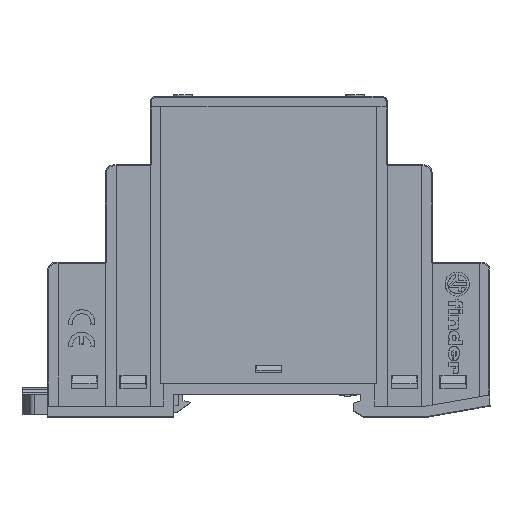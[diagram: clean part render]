
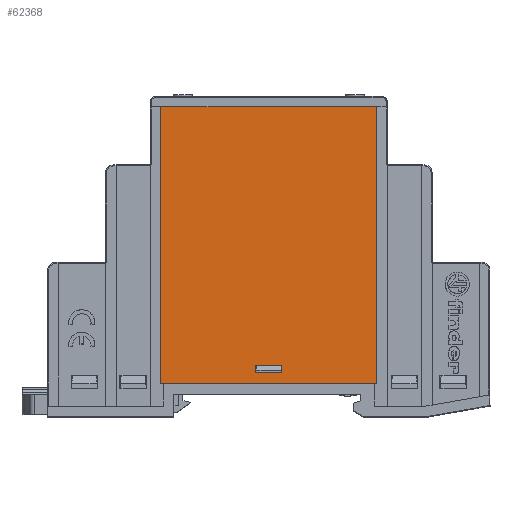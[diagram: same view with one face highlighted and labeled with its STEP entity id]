
A CAD part, top view. The second image highlights one B-rep face of the part: STEP entity #62368.
In plain terms, the highlighted planar face has unit normal (0, 0, -1).
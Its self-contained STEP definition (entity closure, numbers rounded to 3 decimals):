
#7509=ORIENTED_EDGE('',*,*,#21497,.T.);
#7510=ORIENTED_EDGE('',*,*,#21498,.T.);
#7511=ORIENTED_EDGE('',*,*,#21489,.F.);
#7512=ORIENTED_EDGE('',*,*,#21499,.T.);
#7513=ORIENTED_EDGE('',*,*,#21262,.F.);
#7514=ORIENTED_EDGE('',*,*,#21274,.F.);
#7515=ORIENTED_EDGE('',*,*,#21270,.F.);
#7516=ORIENTED_EDGE('',*,*,#21268,.F.);
#21262=EDGE_CURVE('',#30364,#30365,#38078,.T.);
#21268=EDGE_CURVE('',#30365,#30367,#38084,.T.);
#21270=EDGE_CURVE('',#30367,#30369,#38086,.T.);
#21274=EDGE_CURVE('',#30369,#30364,#38090,.T.);
#21489=EDGE_CURVE('',#30515,#30516,#38269,.T.);
#21497=EDGE_CURVE('',#30521,#30522,#38277,.T.);
#21498=EDGE_CURVE('',#30522,#30516,#38278,.T.);
#21499=EDGE_CURVE('',#30515,#30521,#38279,.T.);
#30364=VERTEX_POINT('',#100130);
#30365=VERTEX_POINT('',#100131);
#30367=VERTEX_POINT('',#100138);
#30369=VERTEX_POINT('',#100145);
#30515=VERTEX_POINT('',#100652);
#30516=VERTEX_POINT('',#100653);
#30521=VERTEX_POINT('',#100668);
#30522=VERTEX_POINT('',#100669);
#38078=LINE('',#100129,#46888);
#38084=LINE('',#100140,#46894);
#38086=LINE('',#100144,#46896);
#38090=LINE('',#100150,#46900);
#38269=LINE('',#100651,#47079);
#38277=LINE('',#100667,#47087);
#38278=LINE('',#100670,#47088);
#38279=LINE('',#100671,#47089);
#46888=VECTOR('',#81682,1000.);
#46894=VECTOR('',#81690,1000.);
#46896=VECTOR('',#81694,1000.);
#46900=VECTOR('',#81700,1000.);
#47079=VECTOR('',#82019,1000.);
#47087=VECTOR('',#82031,1000.);
#47088=VECTOR('',#82032,1000.);
#47089=VECTOR('',#82033,1000.);
#54121=EDGE_LOOP('',(#7509,#7510,#7511,#7512));
#54122=EDGE_LOOP('',(#7513,#7514,#7515,#7516));
#57113=FACE_BOUND('',#54121,.T.);
#57114=FACE_BOUND('',#54122,.T.);
#59775=PLANE('',#74069);
#62368=ADVANCED_FACE('',(#57113,#57114),#59775,.F.);
#74069=AXIS2_PLACEMENT_3D('',#100666,#82029,#82030);
#81682=DIRECTION('',(0.,-1.,0.));
#81690=DIRECTION('',(-1.,0.,0.));
#81694=DIRECTION('',(0.,1.,0.));
#81700=DIRECTION('',(1.,0.,0.));
#82019=DIRECTION('',(0.,1.,0.));
#82029=DIRECTION('',(0.,0.,1.));
#82030=DIRECTION('',(1.,0.,0.));
#82031=DIRECTION('',(0.,1.,0.));
#82032=DIRECTION('',(1.,0.,0.));
#82033=DIRECTION('',(-1.,0.,0.));
#100129=CARTESIAN_POINT('',(3.254,9.413,0.));
#100130=CARTESIAN_POINT('',(3.254,10.163,0.));
#100131=CARTESIAN_POINT('',(3.254,8.663,0.));
#100138=CARTESIAN_POINT('',(-1.746,8.663,0.));
#100140=CARTESIAN_POINT('',(0.754,8.663,0.));
#100144=CARTESIAN_POINT('',(-1.746,9.413,0.));
#100145=CARTESIAN_POINT('',(-1.746,10.163,0.));
#100150=CARTESIAN_POINT('',(0.754,10.163,0.));
#100651=CARTESIAN_POINT('',(21.254,32.913,0.));
#100652=CARTESIAN_POINT('',(21.254,6.663,0.));
#100653=CARTESIAN_POINT('',(21.254,59.163,0.));
#100666=CARTESIAN_POINT('',(-28.246,2.363,0.));
#100667=CARTESIAN_POINT('',(-19.746,32.913,0.));
#100668=CARTESIAN_POINT('',(-19.746,6.663,0.));
#100669=CARTESIAN_POINT('',(-19.746,59.163,0.));
#100670=CARTESIAN_POINT('',(0.754,59.163,0.));
#100671=CARTESIAN_POINT('',(0.754,6.663,0.));
